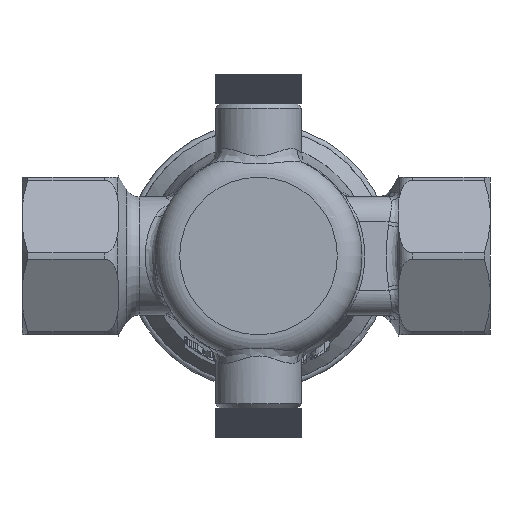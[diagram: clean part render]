
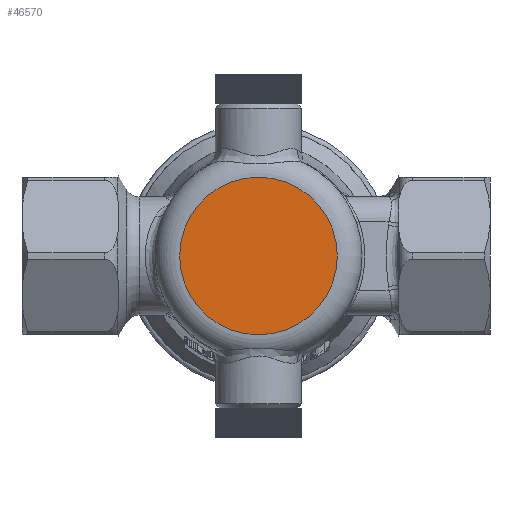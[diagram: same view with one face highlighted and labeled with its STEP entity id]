
A CAD part, front view. The second image highlights one B-rep face of the part: STEP entity #46570.
In plain terms, the highlighted planar face has unit normal (0, -1, 0).
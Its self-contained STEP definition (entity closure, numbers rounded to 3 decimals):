
#4250=PLANE('',#49702);
#15100=FACE_OUTER_BOUND('',#17576,.T.);
#17576=EDGE_LOOP('',(#36988));
#19771=CIRCLE('',#49703,16.);
#22795=VERTEX_POINT('',#72277);
#28087=EDGE_CURVE('',#22795,#22795,#19771,.T.);
#36988=ORIENTED_EDGE('',*,*,#28087,.F.);
#46570=ADVANCED_FACE('',(#15100),#4250,.T.);
#49702=AXIS2_PLACEMENT_3D('',#72276,#57381,#57382);
#49703=AXIS2_PLACEMENT_3D('',#72278,#57383,#57384);
#57381=DIRECTION('center_axis',(0.,-1.,0.));
#57382=DIRECTION('ref_axis',(-1.,0.,0.));
#57383=DIRECTION('center_axis',(0.,1.,0.));
#57384=DIRECTION('ref_axis',(-1.,0.,0.));
#72276=CARTESIAN_POINT('Origin',(0.,0.,0.));
#72277=CARTESIAN_POINT('',(16.,0.,0.));
#72278=CARTESIAN_POINT('Origin',(0.,0.,0.));
